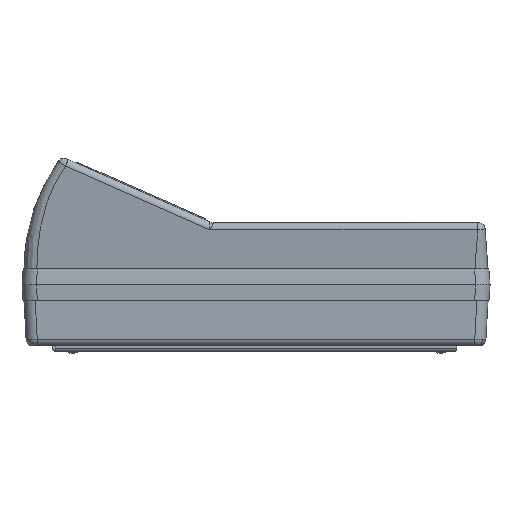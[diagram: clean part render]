
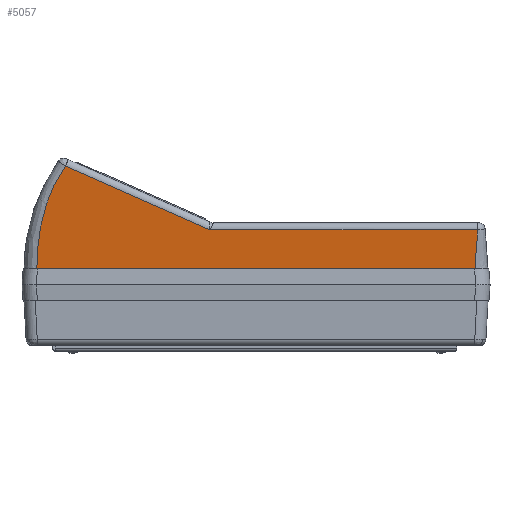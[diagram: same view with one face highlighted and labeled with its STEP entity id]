
A CAD part, top view. The second image highlights one B-rep face of the part: STEP entity #5057.
In plain terms, the highlighted planar face has unit normal (0, -0.122, 0.993).
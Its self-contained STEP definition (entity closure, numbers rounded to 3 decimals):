
#200 = CARTESIAN_POINT ( 'NONE',  ( -72.75, 0., 45.3 ) ) ;
#261 = CARTESIAN_POINT ( 'NONE',  ( 69.366, 12.256, 46.805 ) ) ;
#1222 = DIRECTION ( 'NONE',  ( -0.914, 0.403, 0.05 ) ) ;
#1541 = CARTESIAN_POINT ( 'NONE',  ( -72.75, 0., 45.3 ) ) ;
#1866 = DIRECTION ( 'NONE',  ( 0., -0.993, -0.122 ) ) ;
#2081 = VERTEX_POINT ( 'NONE', #8578 ) ;
#2989 = DIRECTION ( 'NONE',  ( -1., 0., 0. ) ) ;
#3272 = VERTEX_POINT ( 'NONE', #16646 ) ;
#3314 = VECTOR ( 'NONE', #1222, 1000. ) ;
#3513 = CARTESIAN_POINT ( 'NONE',  ( 68.708, 0., 45.3 ) ) ;
#3853 = EDGE_LOOP ( 'NONE', ( #4944, #4544, #8883, #18877, #7146 ) ) ;
#4062 = CARTESIAN_POINT ( 'NONE',  ( 69.366, 12.256, 46.805 ) ) ;
#4071 = EDGE_CURVE ( 'NONE', #2081, #20691, #6391, .T. ) ;
#4544 = ORIENTED_EDGE ( 'NONE', *, *, #4071, .T. ) ;
#4944 = ORIENTED_EDGE ( 'NONE', *, *, #9472, .T. ) ;
#5057 = ADVANCED_FACE ( 'NONE', ( #5543 ), #16728, .T. ) ;
#5543 = FACE_OUTER_BOUND ( 'NONE', #3853, .T. ) ;
#6391 = B_SPLINE_CURVE_WITH_KNOTS ( 'NONE', 3,
 ( #16776, #15172, #6871, #18506 ),
 .UNSPECIFIED., .F., .F.,
 ( 4, 4 ),
 ( 0., 1. ),
 .UNSPECIFIED. ) ;
#6871 = CARTESIAN_POINT ( 'NONE',  ( -68.661, 13.25, 46.927 ) ) ;
#7095 = LINE ( 'NONE', #14595, #20392 ) ;
#7128 = VERTEX_POINT ( 'NONE', #4062 ) ;
#7146 = ORIENTED_EDGE ( 'NONE', *, *, #19718, .T. ) ;
#7722 = LINE ( 'NONE', #17741, #3314 ) ;
#8495 = CARTESIAN_POINT ( 'NONE',  ( 69.372, 12.16, 46.793 ) ) ;
#8578 = CARTESIAN_POINT ( 'NONE',  ( -59.787, 32.257, 49.261 ) ) ;
#8883 = ORIENTED_EDGE ( 'NONE', *, *, #18780, .T. ) ;
#9472 = EDGE_CURVE ( 'NONE', #3272, #2081, #7722, .T. ) ;
#10171 = CARTESIAN_POINT ( 'NONE',  ( 69.368, 12.224, 46.801 ) ) ;
#11081 = LINE ( 'NONE', #1541, #14963 ) ;
#11525 = DIRECTION ( 'NONE',  ( 1., 0., 0. ) ) ;
#11789 = DIRECTION ( 'NONE',  ( 0., -0.122, 0.993 ) ) ;
#12430 = EDGE_CURVE ( 'NONE', #20559, #7128, #14224, .T. ) ;
#13446 = CARTESIAN_POINT ( 'NONE',  ( 68.492, 4.023, 45.794 ) ) ;
#14018 = CARTESIAN_POINT ( 'NONE',  ( 68.708, 0., 45.3 ) ) ;
#14224 = B_SPLINE_CURVE_WITH_KNOTS ( 'NONE', 3,
 ( #3513, #13446, #18457, #8495, #20152, #10171, #261 ),
 .UNSPECIFIED., .F., .F.,
 ( 4, 3, 4 ),
 ( 0.412, 0.599, 0.6 ),
 .UNSPECIFIED. ) ;
#14595 = CARTESIAN_POINT ( 'NONE',  ( -14.05, 12.256, 46.805 ) ) ;
#14963 = VECTOR ( 'NONE', #11525, 1000. ) ;
#15172 = CARTESIAN_POINT ( 'NONE',  ( -65.674, 24.002, 48.247 ) ) ;
#16646 = CARTESIAN_POINT ( 'NONE',  ( -14.472, 12.256, 46.805 ) ) ;
#16728 = PLANE ( 'NONE',  #20324 ) ;
#16776 = CARTESIAN_POINT ( 'NONE',  ( -59.787, 32.257, 49.261 ) ) ;
#17676 = CARTESIAN_POINT ( 'NONE',  ( -68.748, 0., 45.3 ) ) ;
#17741 = CARTESIAN_POINT ( 'NONE',  ( -61.859, 33.171, 49.373 ) ) ;
#18457 = CARTESIAN_POINT ( 'NONE',  ( 69.653, 8.142, 46.3 ) ) ;
#18506 = CARTESIAN_POINT ( 'NONE',  ( -68.748, 0., 45.3 ) ) ;
#18780 = EDGE_CURVE ( 'NONE', #20691, #20559, #11081, .T. ) ;
#18877 = ORIENTED_EDGE ( 'NONE', *, *, #12430, .T. ) ;
#19718 = EDGE_CURVE ( 'NONE', #7128, #3272, #7095, .T. ) ;
#20152 = CARTESIAN_POINT ( 'NONE',  ( 69.37, 12.192, 46.797 ) ) ;
#20324 = AXIS2_PLACEMENT_3D ( 'NONE', #200, #11789, #1866 ) ;
#20392 = VECTOR ( 'NONE', #2989, 1000. ) ;
#20559 = VERTEX_POINT ( 'NONE', #14018 ) ;
#20691 = VERTEX_POINT ( 'NONE', #17676 ) ;
